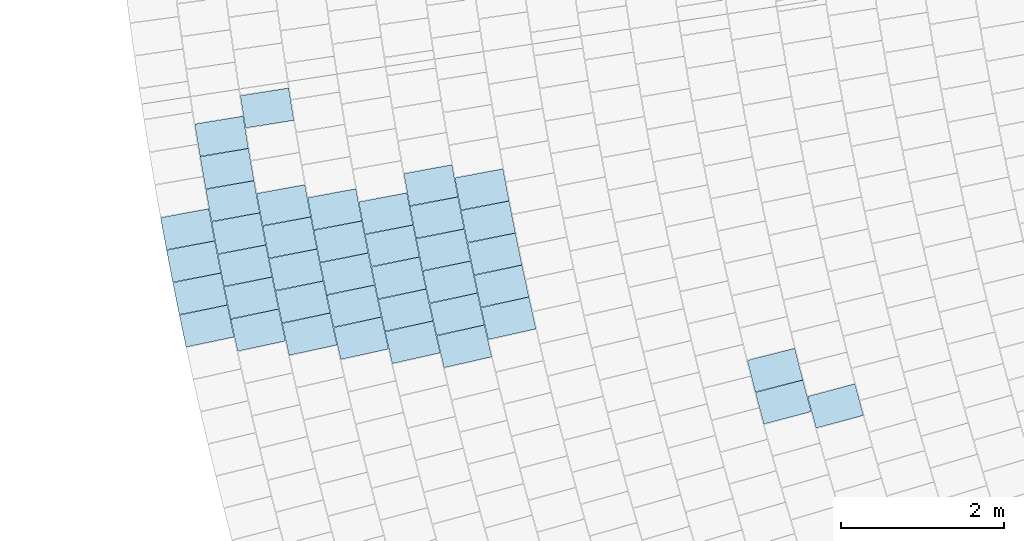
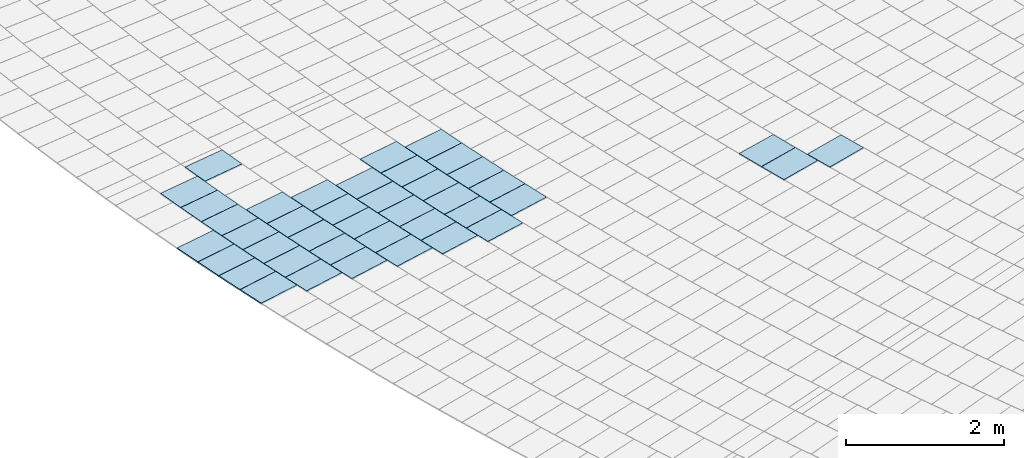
# One storey, part 74 of 438: 41 slabs.
"""IFC2X3 building model written with IfcOpenShell, lengths in millimetres."""

from ifc_helpers import new_model, entity, si_unit, converted_unit, derived_unit, direction, frame, origin, place, context, subcontext, project, spatial, polyline, outline, extrude, material, layer, layer_set, layer_usage, type_object, element, save


model = new_model("IFC2X3")

# Units and contexts
model_context = context("Model", 3, precision=0.01, world=origin(), true_north=direction((6.123031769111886e-17, 1.0)))
body_context = subcontext(model_context, "Body", "Model", "MODEL_VIEW")
ifc_project = project(units=[si_unit("LENGTHUNIT", "METRE", prefix="MILLI"), si_unit("AREAUNIT", "SQUARE_METRE"), si_unit("VOLUMEUNIT", "CUBIC_METRE"), converted_unit("PLANEANGLEUNIT", "DEGREE", entity("IfcRatioMeasure", 0.017453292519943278), si_unit("PLANEANGLEUNIT", "RADIAN"), dimensions=[0, 0, 0, 0, 0, 0, 0]), si_unit("MASSUNIT", "GRAM", prefix="KILO"), derived_unit("MASSDENSITYUNIT", [(si_unit("MASSUNIT", "GRAM", prefix="KILO"), 1), (si_unit("LENGTHUNIT", "METRE"), -3)]), derived_unit("MOMENTOFINERTIAUNIT", [(si_unit("LENGTHUNIT", "METRE"), 4)]), si_unit("TIMEUNIT", "SECOND"), si_unit("FREQUENCYUNIT", "HERTZ"), si_unit("THERMODYNAMICTEMPERATUREUNIT", "DEGREE_CELSIUS"), derived_unit("THERMALTRANSMITTANCEUNIT", [(si_unit("MASSUNIT", "GRAM", prefix="KILO"), 1), (si_unit("THERMODYNAMICTEMPERATUREUNIT", "KELVIN"), -1), (si_unit("TIMEUNIT", "SECOND"), -3)]), derived_unit("THERMALCONDUCTANCEUNIT", [(si_unit("MASSUNIT", "GRAM", prefix="KILO"), 1), (si_unit("LENGTHUNIT", "METRE"), 1), (si_unit("THERMODYNAMICTEMPERATUREUNIT", "KELVIN"), -1), (si_unit("TIMEUNIT", "SECOND"), -3)]), derived_unit("VOLUMETRICFLOWRATEUNIT", [(si_unit("LENGTHUNIT", "METRE"), 3), (si_unit("TIMEUNIT", "SECOND"), -1)]), derived_unit("MASSFLOWRATEUNIT", [(si_unit("MASSUNIT", "GRAM", prefix="KILO"), 1), (si_unit("TIMEUNIT", "SECOND"), -1)]), derived_unit("ROTATIONALFREQUENCYUNIT", [(si_unit("TIMEUNIT", "SECOND"), -1)]), si_unit("ELECTRICCURRENTUNIT", "AMPERE"), si_unit("ELECTRICVOLTAGEUNIT", "VOLT"), si_unit("POWERUNIT", "WATT"), converted_unit("FORCEUNIT", "KIP", entity("IfcRatioMeasure", 2.088543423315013e-05), si_unit("FORCEUNIT", "NEWTON"), dimensions=[1, 1, -2, 0, 0, 0, 0]), si_unit("ILLUMINANCEUNIT", "LUX"), si_unit("LUMINOUSFLUXUNIT", "LUMEN"), si_unit("LUMINOUSINTENSITYUNIT", "CANDELA"), derived_unit("USERDEFINED", [(si_unit("MASSUNIT", "GRAM", prefix="KILO"), -1), (si_unit("LENGTHUNIT", "METRE"), -2), (si_unit("TIMEUNIT", "SECOND"), 3), (si_unit("LUMINOUSFLUXUNIT", "LUMEN"), 1)]), derived_unit("USERDEFINED", [(si_unit("MASSUNIT", "GRAM", prefix="KILO"), 1), (si_unit("LENGTHUNIT", "METRE"), 3), (si_unit("TIMEUNIT", "SECOND"), -3), (si_unit("ELECTRICCURRENTUNIT", "AMPERE"), -2)]), derived_unit("USERDEFINED", [(si_unit("LENGTHUNIT", "METRE"), 2), (si_unit("TIMEUNIT", "SECOND"), -2)]), derived_unit("SOUNDPOWERUNIT", [(si_unit("MASSUNIT", "GRAM", prefix="KILO"), 1), (si_unit("LENGTHUNIT", "METRE"), 2), (si_unit("TIMEUNIT", "SECOND"), -3)]), derived_unit("SOUNDPRESSUREUNIT", [(si_unit("MASSUNIT", "GRAM", prefix="KILO"), 1), (si_unit("LENGTHUNIT", "METRE"), -1), (si_unit("TIMEUNIT", "SECOND"), -2)]), derived_unit("LINEARVELOCITYUNIT", [(si_unit("LENGTHUNIT", "METRE"), 1), (si_unit("TIMEUNIT", "SECOND"), -1)]), si_unit("PRESSUREUNIT", "PASCAL"), derived_unit("USERDEFINED", [(si_unit("LENGTHUNIT", "METRE"), -2), (si_unit("MASSUNIT", "GRAM", prefix="KILO"), 1), (si_unit("TIMEUNIT", "SECOND"), -2)]), derived_unit("LINEARFORCEUNIT", [(si_unit("MASSUNIT", "GRAM", prefix="KILO"), 1), (si_unit("LENGTHUNIT", "METRE"), 1), (si_unit("TIMEUNIT", "SECOND"), -2), (si_unit("LENGTHUNIT", "METRE"), -1)]), derived_unit("PLANARFORCEUNIT", [(si_unit("MASSUNIT", "GRAM", prefix="KILO"), 1), (si_unit("LENGTHUNIT", "METRE"), 1), (si_unit("TIMEUNIT", "SECOND"), -2), (si_unit("LENGTHUNIT", "METRE"), -2)]), derived_unit("SPECIFICHEATCAPACITYUNIT", [(si_unit("LENGTHUNIT", "METRE"), 2), (si_unit("TIMEUNIT", "SECOND"), -2), (si_unit("THERMODYNAMICTEMPERATUREUNIT", "KELVIN"), -1)]), derived_unit("VAPORPERMEABILITYUNIT", [(si_unit("TIMEUNIT", "SECOND"), 1), (si_unit("LENGTHUNIT", "METRE"), -1)]), derived_unit("DYNAMICVISCOSITYUNIT", [(si_unit("MASSUNIT", "GRAM", prefix="KILO"), 1), (si_unit("LENGTHUNIT", "METRE"), -1), (si_unit("TIMEUNIT", "SECOND"), -1)]), derived_unit("THERMALEXPANSIONCOEFFICIENTUNIT", [(si_unit("THERMODYNAMICTEMPERATUREUNIT", "KELVIN"), -1)])], contexts=[model_context])

# Site, building, storey
site_placement = place(None, frame((0.0, 0.0, 0.0), z_axis=(0.0, 0.0, 1.0), x_axis=(0.8191520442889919, 0.5735764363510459, 0.0)))
site = spatial("IfcSite", under=ifc_project, at=site_placement, Name="Default", CompositionType="ELEMENT")
building_placement = place(site_placement, origin())
building = spatial("IfcBuilding", under=site, at=building_placement, CompositionType="ELEMENT")
storey_placement = place(building_placement, origin())
storey = spatial("IfcBuildingStorey", under=building, at=storey_placement, Name="PLAN", CompositionType="ELEMENT", Elevation=0.0)

# Slabs
ifc_material = material(Name="Paint-01")
ifc_layer = layer(ifc_material, 20.00000000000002)
ifc_layer_set = layer_set([ifc_layer], Name="Floor:Slab-179:1000")
ifc_layer_usage = layer_usage(ifc_layer_set, "AXIS3", "POSITIVE", 0.0)
slab_type = type_object("IfcSlabType", Name="Floor:Slab-179:1000", PredefinedType="FLOOR", material=ifc_layer_set)
slab_1_placement = place(storey_placement, origin())
element("IfcSlab", 1, at=slab_1_placement, inside=storey, type_object=slab_type, material=ifc_layer_usage, Name="Floor:Slab-179:1000", ObjectType="Floor:Slab-179:1000", PredefinedType="FLOOR", context=body_context, shape_type="SweptSolid", body=[
    extrude(outline(polyline([(-300.0, -200.0000029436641), (299.9999976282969, -200.0000029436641), (300.0, 200.0000029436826), (-299.9999976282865, 200.0000029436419), (-300.0, -200.0000029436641)])), frame((-82515.4083574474, -52637.819737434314, 520.0), z_axis=(0.0, 0.0, -1.0), x_axis=(0.9400310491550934, -0.34108888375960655, 0.0)), (0.0, 0.0, 1.0), 20.000000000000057),
])
slab_2_placement = place(storey_placement, origin())
element("IfcSlab", 2, at=slab_2_placement, inside=storey, type_object=slab_type, material=ifc_layer_usage, Name="Floor:Slab-179:1000", ObjectType="Floor:Slab-179:1000", PredefinedType="FLOOR", context=body_context, shape_type="SweptSolid", body=[
    extrude(outline(polyline([(-300.0, -200.0000029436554), (299.99999762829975, -200.00000294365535), (300.0, 200.00000294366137), (-299.99999762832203, 200.00000294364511), (-300.0, -200.0000029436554)])), frame((-83011.26446160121, -52232.105298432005, 520.0), z_axis=(0.0, 0.0, -1.0), x_axis=(0.9384293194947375, -0.3454712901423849, 0.0)), (0.0, 0.0, 1.0), 20.000000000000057),
])
slab_3_placement = place(storey_placement, origin())
element("IfcSlab", 3, at=slab_3_placement, inside=storey, type_object=slab_type, material=ifc_layer_usage, Name="Floor:Slab-179:1000", ObjectType="Floor:Slab-179:1000", PredefinedType="FLOOR", context=body_context, shape_type="SweptSolid", body=[
    extrude(outline(polyline([(-300.0, -200.0000029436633), (299.99999762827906, -200.0000029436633), (300.0, 200.00000294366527), (-299.99999762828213, 200.00000294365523), (-300.0, -200.0000029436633)])), frame((-82870.48898585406, -51854.8646461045, 520.0), z_axis=(0.0, 0.0, -1.0), x_axis=(0.9353346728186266, -0.3537641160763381, 0.0)), (0.0, 0.0, 1.0), 19.99999999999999),
])
slab_4_placement = place(storey_placement, origin())
element("IfcSlab", 4, at=slab_4_placement, inside=storey, type_object=slab_type, material=ifc_layer_usage, Name="Floor:Slab-179:1000", ObjectType="Floor:Slab-179:1000", PredefinedType="FLOOR", context=body_context, shape_type="SweptSolid", body=[
    extrude(outline(polyline([(-300.0, -200.00000294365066), (299.9999976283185, -200.00000294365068), (300.0, 200.00000294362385), (-299.999997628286, 200.0000029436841), (-300.0, -200.00000294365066)])), frame((-85178.05896698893, -49463.83138678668, 520.0), z_axis=(0.0, 0.0, -1.0), x_axis=(0.9245788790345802, -0.3809906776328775, 0.0)), (0.0, 0.0, 1.0), 19.999999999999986),
])
slab_5_placement = place(storey_placement, origin())
element("IfcSlab", 5, at=slab_5_placement, inside=storey, type_object=slab_type, material=ifc_layer_usage, Name="Floor:Slab-179:1000", ObjectType="Floor:Slab-179:1000", PredefinedType="FLOOR", context=body_context, shape_type="SweptSolid", body=[
    extrude(outline(polyline([(-300.0, -200.00000294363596), (299.9999976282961, -200.00000294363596), (300.0, 200.00000294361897), (-299.99999762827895, 200.00000294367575), (-300.0, -200.00000294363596)])), frame((-84865.21144996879, -48722.148668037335, 520.0), z_axis=(0.0, 0.0, -1.0), x_axis=(0.9181304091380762, -0.3962783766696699, 0.0)), (0.0, 0.0, 1.0), 19.999999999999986),
])
slab_6_placement = place(storey_placement, origin())
element("IfcSlab", 6, at=slab_6_placement, inside=storey, type_object=slab_type, material=ifc_layer_usage, Name="Floor:Slab-179:1000", ObjectType="Floor:Slab-179:1000", PredefinedType="FLOOR", context=body_context, shape_type="SweptSolid", body=[
    extrude(outline(polyline([(-300.0, -200.0000029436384), (299.9999976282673, -200.0000029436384), (300.0, 200.0000029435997), (-299.99999762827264, 200.0000029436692), (-300.0, -200.0000029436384)])), frame((-84704.18371685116, -48353.27936523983, 520.0), z_axis=(0.0, 0.0, -1.0), x_axis=(0.9148112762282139, -0.40388157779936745, 0.0)), (0.0, 0.0, 1.0), 20.000000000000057),
])
slab_7_placement = place(storey_placement, origin())
element("IfcSlab", 7, at=slab_7_placement, inside=storey, type_object=slab_type, material=ifc_layer_usage, Name="Floor:Slab-179:1000", ObjectType="Floor:Slab-179:1000", PredefinedType="FLOOR", context=body_context, shape_type="SweptSolid", body=[
    extrude(outline(polyline([(-300.0, -200.00000294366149), (299.99999762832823, -200.00000294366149), (300.0, 200.0000029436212), (-299.99999762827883, 200.00000294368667), (-300.0, -200.00000294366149)])), frame((-84540.10137404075, -47985.75864724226, 520.0), z_axis=(0.0, 0.0, -1.0), x_axis=(0.9114291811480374, -0.4114569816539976, 0.0)), (0.0, 0.0, 1.0), 19.99999999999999),
])
slab_8_placement = place(storey_placement, origin())
element("IfcSlab", 8, at=slab_8_placement, inside=storey, type_object=slab_type, material=ifc_layer_usage, Name="Floor:Slab-179:1000", ObjectType="Floor:Slab-179:1000", PredefinedType="FLOOR", context=body_context, shape_type="SweptSolid", body=[
    extrude(outline(polyline([(-300.0, -200.00000294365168), (299.9999976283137, -200.00000294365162), (300.0, 200.0000029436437), (-299.99999762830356, 200.00000294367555), (-300.0, -200.00000294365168)])), frame((-85023.17349061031, -49092.341168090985, 520.0), z_axis=(0.0, 0.0, -1.0), x_axis=(0.9213863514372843, -0.38864790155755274, 0.0)), (0.0, 0.0, 1.0), 20.000000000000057),
])
slab_9_placement = place(storey_placement, origin())
element("IfcSlab", 9, at=slab_9_placement, inside=storey, type_object=slab_type, material=ifc_layer_usage, Name="Floor:Slab-179:1000", ObjectType="Floor:Slab-179:1000", PredefinedType="FLOOR", context=body_context, shape_type="SweptSolid", body=[
    extrude(outline(polyline([(-300.0, -200.0000029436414), (299.99999762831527, -200.00000294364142), (300.0, 200.00000294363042), (-299.99999762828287, 200.000002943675), (-300.0, -200.0000029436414)])), frame((-85819.42617590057, -49433.57121132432, 520.0), z_axis=(0.0, 0.0, -1.0), x_axis=(0.9262481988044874, -0.37691414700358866, 0.0)), (0.0, 0.0, 1.0), 19.99999999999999),
])
slab_10_placement = place(storey_placement, origin())
element("IfcSlab", 10, at=slab_10_placement, inside=storey, type_object=slab_type, material=ifc_layer_usage, Name="Floor:Slab-179:1000", ObjectType="Floor:Slab-179:1000", PredefinedType="FLOOR", context=body_context, shape_type="SweptSolid", body=[
    extrude(outline(polyline([(-300.0, -200.00000294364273), (299.99999762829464, -200.00000294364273), (300.0, 200.00000294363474), (-299.9999976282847, 200.00000294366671), (-300.0, -200.00000294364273)])), frame((-85666.2094832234, -49061.42287993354, 520.0), z_axis=(0.0, 0.0, -1.0), x_axis=(0.9231289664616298, -0.38449045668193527, 0.0)), (0.0, 0.0, 1.0), 20.000000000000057),
])
slab_11_placement = place(storey_placement, origin())
element("IfcSlab", 11, at=slab_11_placement, inside=storey, type_object=slab_type, material=ifc_layer_usage, Name="Floor:Slab-179:1000", ObjectType="Floor:Slab-179:1000", PredefinedType="FLOOR", context=body_context, shape_type="SweptSolid", body=[
    extrude(outline(polyline([(-300.0, -200.0000029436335), (299.99999762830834, -200.00000294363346), (300.0, 200.00000294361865), (-299.99999762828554, 200.00000294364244), (-300.0, -200.0000029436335)])), frame((-85350.65472968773, -48320.95460487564, 520.0), z_axis=(0.0, 0.0, -1.0), x_axis=(0.9167048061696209, -0.39956513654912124, 0.0)), (0.0, 0.0, 1.0), 20.000000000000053),
])
slab_12_placement = place(storey_placement, origin())
element("IfcSlab", 12, at=slab_12_placement, inside=storey, type_object=slab_type, material=ifc_layer_usage, Name="Floor:Slab-179:1000", ObjectType="Floor:Slab-179:1000", PredefinedType="FLOOR", context=body_context, shape_type="SweptSolid", body=[
    extrude(outline(polyline([(-300.0, -200.0000029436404), (299.9999976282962, -200.00000294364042), (300.0, 200.000002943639), (-299.9999976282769, 200.00000294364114), (-300.0, -200.0000029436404)])), frame((-85023.00910130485, -47585.75639279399, 520.0), z_axis=(0.0, 0.0, -1.0), x_axis=(0.9100344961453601, -0.414532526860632, 0.0)), (0.0, 0.0, 1.0), 20.000000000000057),
])
slab_13_placement = place(storey_placement, origin())
element("IfcSlab", 13, at=slab_13_placement, inside=storey, type_object=slab_type, material=ifc_layer_usage, Name="Floor:Slab-179:1000", ObjectType="Floor:Slab-179:1000", PredefinedType="FLOOR", context=body_context, shape_type="SweptSolid", body=[
    extrude(outline(polyline([(-300.0, -200.0000029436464), (299.99999762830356, -200.0000029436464), (300.0, 200.0000029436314), (-299.9999976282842, 200.00000294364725), (-300.0, -200.0000029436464)])), frame((-85188.3378520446, -47952.68436890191, 520.0), z_axis=(0.0, 0.0, -1.0), x_axis=(0.9134003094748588, -0.407062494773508, 0.0)), (0.0, 0.0, 1.0), 19.99999999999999),
])
slab_14_placement = place(storey_placement, origin())
element("IfcSlab", 14, at=slab_14_placement, inside=storey, type_object=slab_type, material=ifc_layer_usage, Name="Floor:Slab-179:1000", ObjectType="Floor:Slab-179:1000", PredefinedType="FLOOR", context=body_context, shape_type="SweptSolid", body=[
    extrude(outline(polyline([(-300.0, -200.00000294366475), (299.9999976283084, -200.00000294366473), (300.0, 200.00000294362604), (-299.9999976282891, 200.00000294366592), (-300.0, -200.00000294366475)])), frame((-85509.94883788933, -48690.54237870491, 520.0), z_axis=(0.0, 0.0, -1.0), x_axis=(0.9199477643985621, -0.39204095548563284, 0.0)), (0.0, 0.0, 1.0), 19.999999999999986),
])
slab_15_placement = place(storey_placement, origin())
element("IfcSlab", 15, at=slab_15_placement, inside=storey, type_object=slab_type, material=ifc_layer_usage, Name="Floor:Slab-179:1000", ObjectType="Floor:Slab-179:1000", PredefinedType="FLOOR", context=body_context, shape_type="SweptSolid", body=[
    extrude(outline(polyline([(-300.0, -200.0000029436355), (299.99999762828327, -200.0000029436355), (300.0, 200.0000029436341), (-299.9999976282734, 200.00000294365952), (-300.0, -200.0000029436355)])), frame((-86308.33390062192, -49030.84851224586, 520.0), z_axis=(0.0, 0.0, -1.0), x_axis=(0.9248108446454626, -0.3804272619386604, 0.0)), (0.0, 0.0, 1.0), 20.000000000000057),
])
slab_16_placement = place(storey_placement, origin())
element("IfcSlab", 16, at=slab_16_placement, inside=storey, type_object=slab_type, material=ifc_layer_usage, Name="Floor:Slab-179:1000", ObjectType="Floor:Slab-179:1000", PredefinedType="FLOOR", context=body_context, shape_type="SweptSolid", body=[
    extrude(outline(polyline([(-300.0, -200.00000294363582), (299.99999762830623, -200.00000294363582), (300.0, 200.00000294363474), (-299.99999762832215, 200.00000294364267), (-300.0, -200.00000294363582)])), frame((-85996.13603835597, -48289.02358239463, 520.0), z_axis=(0.0, 0.0, -1.0), x_axis=(0.9185323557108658, -0.395345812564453, 0.0)), (0.0, 0.0, 1.0), 20.000000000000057),
])
slab_17_placement = place(storey_placement, origin())
element("IfcSlab", 17, at=slab_17_placement, inside=storey, type_object=slab_type, material=ifc_layer_usage, Name="Floor:Slab-179:1000", ObjectType="Floor:Slab-179:1000", PredefinedType="FLOOR", context=body_context, shape_type="SweptSolid", body=[
    extrude(outline(polyline([(-300.0, -200.0000029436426), (299.9999976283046, -200.00000294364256), (300.0, 200.00000294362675), (-299.999997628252, 200.0000029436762), (-300.0, -200.0000029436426)])), frame((-85835.54469844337, -47920.03034911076, 520.0), z_axis=(0.0, 0.0, -1.0), x_axis=(0.9153027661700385, -0.40276649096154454, 0.0)), (0.0, 0.0, 1.0), 19.999999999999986),
])
slab_18_placement = place(storey_placement, origin())
element("IfcSlab", 18, at=slab_18_placement, inside=storey, type_object=slab_type, material=ifc_layer_usage, Name="Floor:Slab-179:1000", ObjectType="Floor:Slab-179:1000", PredefinedType="FLOOR", context=body_context, shape_type="SweptSolid", body=[
    extrude(outline(polyline([(-300.0, -200.00000294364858), (299.9999976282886, -200.0000029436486), (300.0, 200.00000294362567), (-299.9999976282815, 200.00000294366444), (-300.0, -200.00000294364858)])), frame((-85671.97237830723, -47552.3488554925, 520.0), z_axis=(0.0, 0.0, -1.0), x_axis=(0.912013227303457, -0.41016078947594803, 0.0)), (0.0, 0.0, 1.0), 20.000000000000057),
])
slab_19_placement = place(storey_placement, origin())
element("IfcSlab", 19, at=slab_19_placement, inside=storey, type_object=slab_type, material=ifc_layer_usage, Name="Floor:Slab-179:1000", ObjectType="Floor:Slab-179:1000", PredefinedType="FLOOR", context=body_context, shape_type="SweptSolid", body=[
    extrude(outline(polyline([(-300.0, -200.00000294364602), (299.9999976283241, -200.000002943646), (300.0, 200.0000029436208), (-299.99999762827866, 200.0000029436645), (-300.0, -200.00000294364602)])), frame((-86153.7358798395, -48659.304387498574, 520.0), z_axis=(0.0, 0.0, -1.0), x_axis=(0.9217017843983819, -0.38789924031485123, 0.0)), (0.0, 0.0, 1.0), 20.000000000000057),
])
slab_20_placement = place(storey_placement, origin())
element("IfcSlab", 20, at=slab_20_placement, inside=storey, type_object=slab_type, material=ifc_layer_usage, Name="Floor:Slab-179:1000", ObjectType="Floor:Slab-179:1000", PredefinedType="FLOOR", context=body_context, shape_type="SweptSolid", body=[
    extrude(outline(polyline([(-300.0, -200.00000294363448), (299.99999762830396, -200.00000294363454), (300.0, 200.00000294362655), (-299.9999976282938, 200.00000294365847), (-300.0, -200.00000294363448)])), frame((-86640.66188175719, -48257.46759153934, 520.0), z_axis=(0.0, 0.0, -1.0), x_axis=(0.9202969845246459, -0.3912204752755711, 0.0)), (0.0, 0.0, 1.0), 20.000000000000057),
])
slab_21_placement = place(storey_placement, origin())
element("IfcSlab", 21, at=slab_21_placement, inside=storey, type_object=slab_type, material=ifc_layer_usage, Name="Floor:Slab-179:1000", ObjectType="Floor:Slab-179:1000", PredefinedType="FLOOR", context=body_context, shape_type="SweptSolid", body=[
    extrude(outline(polyline([(-300.0, -200.0000029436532), (299.9999976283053, -200.0000029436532), (300.0, 200.0000029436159), (-299.9999976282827, 200.00000294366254), (-300.0, -200.0000029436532)])), frame((-86796.6055316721, -48628.41717968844, 520.0), z_axis=(0.0, 0.0, -1.0), x_axis=(0.9233954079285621, -0.38385012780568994, 0.0)), (0.0, 0.0, 1.0), 20.000000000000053),
])
slab_22_placement = place(storey_placement, origin())
element("IfcSlab", 22, at=slab_22_placement, inside=storey, type_object=slab_type, material=ifc_layer_usage, Name="Floor:Slab-179:1000", ObjectType="Floor:Slab-179:1000", PredefinedType="FLOOR", context=body_context, shape_type="SweptSolid", body=[
    extrude(outline(polyline([(-300.0, -200.000002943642), (299.9999976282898, -200.000002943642), (300.0, 200.0000029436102), (-299.99999762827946, 200.00000294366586), (-300.0, -200.000002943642)])), frame((-86481.7574461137, -47887.776640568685, 520.0), z_axis=(0.0, 0.0, -1.0), x_axis=(0.9171397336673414, -0.39856581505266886, 0.0)), (0.0, 0.0, 1.0), 20.000000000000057),
])
slab_23_placement = place(storey_placement, origin())
element("IfcSlab", 23, at=slab_23_placement, inside=storey, type_object=slab_type, material=ifc_layer_usage, Name="Floor:Slab-179:1000", ObjectType="Floor:Slab-179:1000", PredefinedType="FLOOR", context=body_context, shape_type="SweptSolid", body=[
    extrude(outline(polyline([(-300.0, -200.0000029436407), (299.9999976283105, -200.0000029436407), (300.0, 200.00000294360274), (-299.99999762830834, 200.00000294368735), (-300.0, -200.0000029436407)])), frame((-86155.10703636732, -47152.26509410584, 520.0), z_axis=(0.0, 0.0, -1.0), x_axis=(0.9106495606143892, -0.4131795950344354, 0.0)), (0.0, 0.0, 1.0), 20.000000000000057),
])
slab_24_placement = place(storey_placement, origin())
element("IfcSlab", 24, at=slab_24_placement, inside=storey, type_object=slab_type, material=ifc_layer_usage, Name="Floor:Slab-179:1000", ObjectType="Floor:Slab-179:1000", PredefinedType="FLOOR", context=body_context, shape_type="SweptSolid", body=[
    extrude(outline(polyline([(-300.0, -200.00000294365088), (299.999997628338, -200.0000029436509), (300.0, 200.00000294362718), (-299.99999762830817, 200.00000294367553), (-300.0, -200.00000294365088)])), frame((-86319.90238227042, -47519.367958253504, 520.0), z_axis=(0.0, 0.0, -1.0), x_axis=(0.9139238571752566, -0.4058856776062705, 0.0)), (0.0, 0.0, 1.0), 20.000000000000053),
])
slab_25_placement = place(storey_placement, origin())
element("IfcSlab", 25, at=slab_25_placement, inside=storey, type_object=slab_type, material=ifc_layer_usage, Name="Floor:Slab-179:1000", ObjectType="Floor:Slab-179:1000", PredefinedType="FLOOR", context=body_context, shape_type="SweptSolid", body=[
    extrude(outline(polyline([(-300.0, -200.0000029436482), (299.99999762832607, -200.0000029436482), (300.0, 200.00000294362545), (-299.9999976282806, 200.0000029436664), (-300.0, -200.0000029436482)])), frame((-87127.01003639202, -47855.904463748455, 520.0), z_axis=(0.0, 0.0, -1.0), x_axis=(0.918914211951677, -0.39445743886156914, 0.0)), (0.0, 0.0, 1.0), 20.000000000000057),
])
slab_26_placement = place(storey_placement, origin())
element("IfcSlab", 26, at=slab_26_placement, inside=storey, type_object=slab_type, material=ifc_layer_usage, Name="Floor:Slab-179:1000", ObjectType="Floor:Slab-179:1000", PredefinedType="FLOOR", context=body_context, shape_type="SweptSolid", body=[
    extrude(outline(polyline([(-300.0, -200.00000294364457), (299.99999762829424, -200.0000029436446), (300.0, 200.00000294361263), (-299.9999976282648, 200.00000294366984), (-300.0, -200.00000294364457)])), frame((-87284.26496015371, -48226.2690221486, 520.0), z_axis=(0.0, 0.0, -1.0), x_axis=(0.9220015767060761, -0.38718612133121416, 0.0)), (0.0, 0.0, 1.0), 19.99999999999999),
])
slab_27_placement = place(storey_placement, origin())
element("IfcSlab", 27, at=slab_27_placement, inside=storey, type_object=slab_type, material=ifc_layer_usage, Name="Floor:Slab-179:1000", ObjectType="Floor:Slab-179:1000", PredefinedType="FLOOR", context=body_context, shape_type="SweptSolid", body=[
    extrude(outline(polyline([(-300.0, -200.00000294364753), (299.9999976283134, -200.00000294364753), (300.0, 200.00000294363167), (-299.99999762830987, 200.00000294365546), (-300.0, -200.00000294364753)])), frame((-86966.83430556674, -47486.79370473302, 520.0), z_axis=(0.0, 0.0, -1.0), x_axis=(0.9157695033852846, -0.40170414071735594, 0.0)), (0.0, 0.0, 1.0), 20.000000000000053),
])
slab_28_placement = place(storey_placement, origin())
element("IfcSlab", 28, at=slab_28_placement, inside=storey, type_object=slab_type, material=ifc_layer_usage, Name="Floor:Slab-179:1000", ObjectType="Floor:Slab-179:1000", PredefinedType="FLOOR", context=body_context, shape_type="SweptSolid", body=[
    extrude(outline(polyline([(-300.0, -200.0000029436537), (299.99999762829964, -200.00000294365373), (300.0, 200.00000294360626), (-299.99999762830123, 200.00000294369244), (-300.0, -200.0000029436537)])), frame((-86803.74776326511, -47118.95977904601, 520.0), z_axis=(0.0, 0.0, -1.0), x_axis=(0.9125676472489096, -0.4089257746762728, 0.0)), (0.0, 0.0, 1.0), 19.99999999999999),
])
slab_29_placement = place(storey_placement, origin())
element("IfcSlab", 29, at=slab_29_placement, inside=storey, type_object=slab_type, material=ifc_layer_usage, Name="Floor:Slab-179:1000", ObjectType="Floor:Slab-179:1000", PredefinedType="FLOOR", context=body_context, shape_type="SweptSolid", body=[
    extrude(outline(polyline([(-300.0, -200.00000294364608), (299.9999976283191, -200.00000294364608), (300.0, 200.000002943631), (-299.99999762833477, 200.0000029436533), (-300.0, -200.00000294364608)])), frame((-86637.76058672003, -46752.425640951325, 520.0), z_axis=(0.0, 0.0, -1.0), x_axis=(0.9093088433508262, -0.41612189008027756, 0.0)), (0.0, 0.0, 1.0), 20.000000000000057),
])
slab_30_placement = place(storey_placement, origin())
element("IfcSlab", 30, at=slab_30_placement, inside=storey, type_object=slab_type, material=ifc_layer_usage, Name="Floor:Slab-179:1000", ObjectType="Floor:Slab-179:1000", PredefinedType="FLOOR", context=body_context, shape_type="SweptSolid", body=[
    extrude(outline(polyline([(-300.0, -200.0000029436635), (299.9999976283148, -200.0000029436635), (300.0, 200.00000294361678), (-299.99999762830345, 200.00000294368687), (-300.0, -200.0000029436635)])), frame((-86122.49973522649, -45660.85026962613, 520.0), z_axis=(0.0, 0.0, -1.0), x_axis=(0.8991927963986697, -0.437552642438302, 0.0)), (0.0, 0.0, 1.0), 19.99999999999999),
])
slab_31_placement = place(storey_placement, origin())
element("IfcSlab", 31, at=slab_31_placement, inside=storey, type_object=slab_type, material=ifc_layer_usage, Name="Floor:Slab-179:1000", ObjectType="Floor:Slab-179:1000", PredefinedType="FLOOR", context=body_context, shape_type="SweptSolid", body=[
    extrude(outline(polyline([(-300.0, -200.00000294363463), (299.99999762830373, -200.00000294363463), (300.0, 200.00000294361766), (-299.9999976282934, 200.00000294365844), (-300.0, -200.00000294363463)])), frame((-87612.80178524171, -47454.607254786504, 520.0), z_axis=(0.0, 0.0, -1.0), x_axis=(0.9175531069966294, -0.3976132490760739, 0.0)), (0.0, 0.0, 1.0), 20.000000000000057),
])
slab_32_placement = place(storey_placement, origin())
element("IfcSlab", 32, at=slab_32_placement, inside=storey, type_object=slab_type, material=ifc_layer_usage, Name="Floor:Slab-179:1000", ObjectType="Floor:Slab-179:1000", PredefinedType="FLOOR", context=body_context, shape_type="SweptSolid", body=[
    extrude(outline(polyline([(-300.0, -200.00000294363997), (299.9999976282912, -200.00000294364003), (300.0, 200.00000294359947), (-299.9999976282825, 200.0000029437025), (-300.0, -200.00000294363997)])), frame((-87451.38681891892, -47086.06720525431, 520.0), z_axis=(0.0, 0.0, -1.0), x_axis=(0.9144212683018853, -0.4047638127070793, 0.0)), (0.0, 0.0, 1.0), 20.000000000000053),
])
slab_33_placement = place(storey_placement, origin())
element("IfcSlab", 33, at=slab_33_placement, inside=storey, type_object=slab_type, material=ifc_layer_usage, Name="Floor:Slab-179:1000", ObjectType="Floor:Slab-179:1000", PredefinedType="FLOOR", context=body_context, shape_type="SweptSolid", body=[
    extrude(outline(polyline([(-300.0, -200.00000294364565), (299.999997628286, -200.00000294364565), (300.0, 200.00000294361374), (-299.99999762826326, 200.00000294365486), (-300.0, -200.00000294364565)])), frame((-87771.33490561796, -47824.39612590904, 520.0), z_axis=(0.0, 0.0, -1.0), x_axis=(0.9206290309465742, -0.39043845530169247, 0.0)), (0.0, 0.0, 1.0), 20.000000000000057),
])
slab_34_placement = place(storey_placement, origin())
element("IfcSlab", 34, at=slab_34_placement, inside=storey, type_object=slab_type, material=ifc_layer_usage, Name="Floor:Slab-179:1000", ObjectType="Floor:Slab-179:1000", PredefinedType="FLOOR", context=body_context, shape_type="SweptSolid", body=[
    extrude(outline(polyline([(-300.0, -200.0000029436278), (299.99999762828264, -200.00000294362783), (300.0, 200.0000029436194), (-299.9999976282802, 200.00000294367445), (-300.0, -200.0000029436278)])), frame((-87119.95086930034, -46352.82332729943, 520.0), z_axis=(0.0, 0.0, -1.0), x_axis=(0.9079906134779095, -0.4189905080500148, 0.0)), (0.0, 0.0, 1.0), 20.000000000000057),
])
slab_35_placement = place(storey_placement, origin())
element("IfcSlab", 35, at=slab_35_placement, inside=storey, type_object=slab_type, material=ifc_layer_usage, Name="Floor:Slab-179:1000", ObjectType="Floor:Slab-179:1000", PredefinedType="FLOOR", context=body_context, shape_type="SweptSolid", body=[
    extrude(outline(polyline([(-300.0, -200.00000294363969), (299.9999976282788, -200.00000294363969), (300.0, 200.00000294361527), (-299.9999976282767, 200.00000294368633), (-300.0, -200.00000294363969)])), frame((-87287.09984311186, -46718.79843576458, 520.0), z_axis=(0.0, 0.0, -1.0), x_axis=(0.9112337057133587, -0.4118897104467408, 0.0)), (0.0, 0.0, 1.0), 19.999999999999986),
])
slab_36_placement = place(storey_placement, origin())
element("IfcSlab", 36, at=slab_36_placement, inside=storey, type_object=slab_type, material=ifc_layer_usage, Name="Floor:Slab-179:1000", ObjectType="Floor:Slab-179:1000", PredefinedType="FLOOR", context=body_context, shape_type="SweptSolid", body=[
    extrude(outline(polyline([(-300.0, -200.0000029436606), (299.999997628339, -200.0000029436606), (300.0, 200.0000029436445), (-299.9999976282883, 200.00000294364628), (-300.0, -200.0000029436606)])), frame((-86949.95008337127, -45988.16418200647, 520.0), z_axis=(0.0, 0.0, -1.0), x_axis=(0.9046921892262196, -0.4260657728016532, 0.0)), (0.0, 0.0, 1.0), 20.000000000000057),
])
slab_37_placement = place(storey_placement, origin())
element("IfcSlab", 37, at=slab_37_placement, inside=storey, type_object=slab_type, material=ifc_layer_usage, Name="Floor:Slab-179:1000", ObjectType="Floor:Slab-179:1000", PredefinedType="FLOOR", context=body_context, shape_type="SweptSolid", body=[
    extrude(outline(polyline([(-300.0, -200.00000294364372), (299.99999762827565, -200.00000294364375), (300.0, 200.00000294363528), (-299.9999976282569, 200.0000029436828), (-300.0, -200.00000294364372)])), frame((-86777.10784499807, -45624.8432218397, 520.0), z_axis=(0.0, 0.0, -1.0), x_axis=(0.9013386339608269, -0.4331150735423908, 0.0)), (0.0, 0.0, 1.0), 19.99999999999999),
])
slab_38_placement = place(storey_placement, origin())
element("IfcSlab", 38, at=slab_38_placement, inside=storey, type_object=slab_type, material=ifc_layer_usage, Name="Floor:Slab-179:1000", ObjectType="Floor:Slab-179:1000", PredefinedType="FLOOR", context=body_context, shape_type="SweptSolid", body=[
    extrude(outline(polyline([(-300.0, -200.0000029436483), (299.99999762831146, -200.0000029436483), (300.0, 200.0000029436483), (-299.9999976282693, 200.00000294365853), (-300.0, -200.0000029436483)])), frame((-88257.83698648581, -47422.790845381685, 520.0), z_axis=(0.0, 0.0, -1.0), x_axis=(0.9192774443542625, -0.3936101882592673, 0.0)), (0.0, 0.0, 1.0), 19.99999999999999),
])
slab_39_placement = place(storey_placement, origin())
element("IfcSlab", 39, at=slab_39_placement, inside=storey, type_object=slab_type, material=ifc_layer_usage, Name="Floor:Slab-179:1000", ObjectType="Floor:Slab-179:1000", PredefinedType="FLOOR", context=body_context, shape_type="SweptSolid", body=[
    extrude(outline(polyline([(-300.0, -200.00000294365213), (299.99999762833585, -200.0000029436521), (300.0, 200.00000294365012), (-299.99999762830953, 200.000002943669), (-300.0, -200.00000294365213)])), frame((-88098.05753040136, -47053.56848402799, 520.0), z_axis=(0.0, 0.0, -1.0), x_axis=(0.9162133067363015, -0.4006908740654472, 0.0)), (0.0, 0.0, 1.0), 20.000000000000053),
])
slab_40_placement = place(storey_placement, origin())
element("IfcSlab", 40, at=slab_40_placement, inside=storey, type_object=slab_type, material=ifc_layer_usage, Name="Floor:Slab-179:1000", ObjectType="Floor:Slab-179:1000", PredefinedType="FLOOR", context=body_context, shape_type="SweptSolid", body=[
    extrude(outline(polyline([(-300.0, -200.00000294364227), (299.999997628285, -200.0000029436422), (300.0, 200.00000294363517), (-299.999997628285, 200.0000029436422), (-300.0, -200.00000294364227)])), frame((-87935.43420888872, -46685.58984061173, 520.0), z_axis=(0.0, 0.0, -1.0), x_axis=(0.9130946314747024, -0.4077477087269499, 0.0)), (0.0, 0.0, 1.0), 20.000000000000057),
])
slab_41_placement = place(storey_placement, origin())
element("IfcSlab", 41, at=slab_41_placement, inside=storey, type_object=slab_type, material=ifc_layer_usage, Name="Floor:Slab-179:1000", ObjectType="Floor:Slab-179:1000", PredefinedType="FLOOR", context=body_context, shape_type="SweptSolid", body=[
    extrude(outline(polyline([(-300.0, -200.00000294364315), (299.99999762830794, -200.00000294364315), (300.0, 200.00000294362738), (-299.99999762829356, 200.00000294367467), (-300.0, -200.00000294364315)])), frame((-87769.9767021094, -46318.87681908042, 520.0), z_axis=(0.0, 0.0, -1.0), x_axis=(0.9099216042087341, -0.4147802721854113, 0.0)), (0.0, 0.0, 1.0), 20.000000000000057),
])

save(model, "model.ifc")
